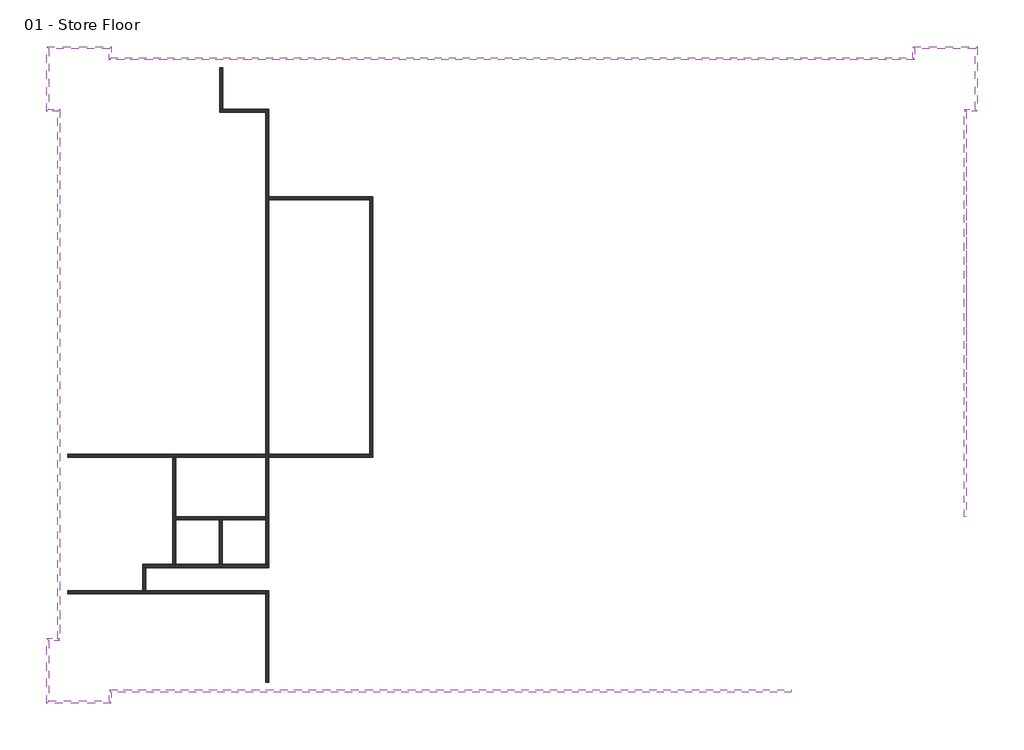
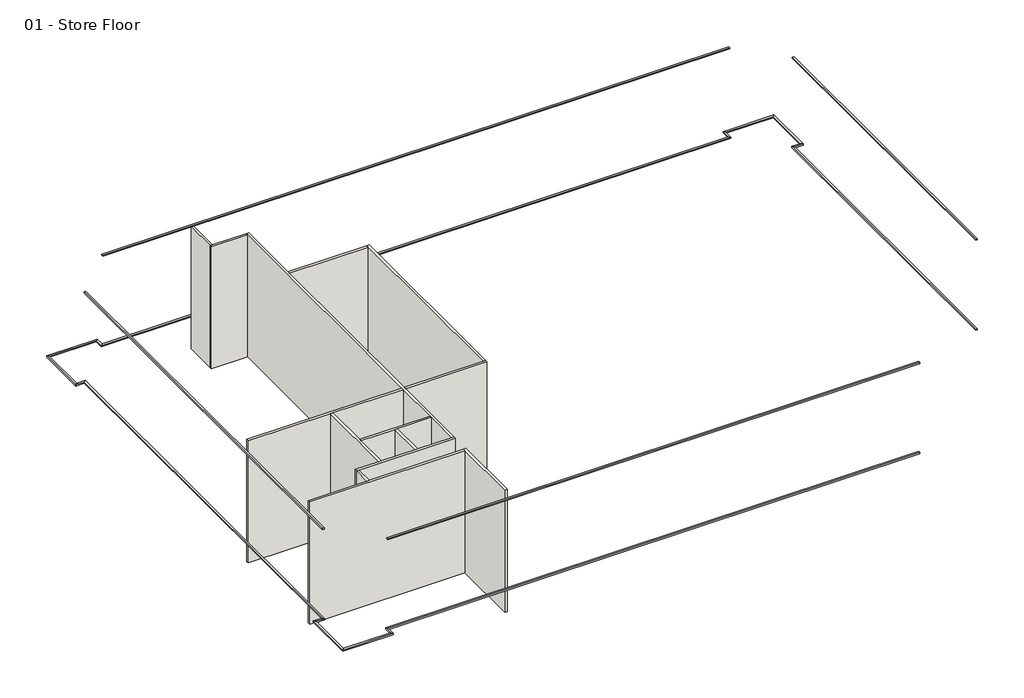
# One storey: 20 proxies, 13 walls.
"""IFC4 building model written with IfcOpenShell, lengths in millimetres."""

from ifc_helpers import new_model, si_unit, frame, origin, origin_with_axes, place, context, project, spatial, polyline, outline, extrude, faceted_brep, element, save

model = new_model("IFC4")

# Units and contexts
model_context = context("Model", 3, world=origin())
ifc_project = project(units=[si_unit("LENGTHUNIT", "METRE", prefix="MILLI")], contexts=[model_context])

# Site, building, storey
site = spatial("IfcSite", under=ifc_project)
building = spatial("IfcBuilding", under=site)
storey = spatial("IfcBuildingStorey", under=building, Name="01 - Store Floor", Elevation=0.0)

# Proxies
placement = place(None, origin())
element("IfcBuildingElementProxy", 1, Name="Reveals", at=placement, inside=storey, context=model_context, shape_type="SweptSolid", body=[
    extrude(outline(polyline([(10855.5272279, -14331.9313057), (10855.5272279, -14434.4313057), (-20003.9727721, -14434.4313057), (-20106.4727721, -14331.9313057), (10855.5272279, -14331.9313057)])), frame((0.0, 0.0, 1675.0), z_axis=(0.0, 0.0, 1.0), x_axis=(1.0, 0.0, 0.0)), (0.0, 0.0, 1.0), 75.0),
])
element("IfcBuildingElementProxy", 2, Name="Reveals", at=placement, inside=storey, context=model_context, shape_type="SweptSolid", body=[
    extrude(outline(polyline([(10855.5272279, -14331.9313057), (10855.5272279, -14434.4313057), (-20031.4727721, -14434.4313057), (-20031.4727721, -14331.9313057), (10855.5272279, -14331.9313057)])), frame((0.0, 0.0, 7200.0), z_axis=(0.0, 0.0, 1.0), x_axis=(1.0, 0.0, 0.0)), (0.0, 0.0, 1.0), 75.0),
])
element("IfcBuildingElementProxy", 3, Name="Reveals", at=placement, inside=storey, context=model_context, shape_type="SweptSolid", body=[
    extrude(outline(polyline([(-20106.4727721, -14331.9313057), (-20003.9727721, -14434.4313057), (-20003.9727721, -14934.2313057), (-20106.4727721, -14831.7313057), (-20106.4727721, -14331.9313057)])), frame((0.0, 0.0, 1675.0), z_axis=(0.0, 0.0, 1.0), x_axis=(1.0, 0.0, 0.0)), (0.0, 0.0, 1.0), 75.0),
])
element("IfcBuildingElementProxy", 4, Name="Reveals", at=placement, inside=storey, context=model_context, shape_type="SweptSolid", body=[
    extrude(outline(polyline([(-20106.4727721, -14831.7313057), (-20003.9727721, -14934.2313057), (-22946.9727721, -14934.2313057), (-22844.4727721, -14831.7313057), (-20106.4727721, -14831.7313057)])), frame((0.0, 0.0, 1675.0), z_axis=(0.0, 0.0, 1.0), x_axis=(1.0, 0.0, 0.0)), (0.0, 0.0, 1.0), 75.0),
])
element("IfcBuildingElementProxy", 5, Name="Reveals", at=placement, inside=storey, context=model_context, shape_type="SweptSolid", body=[
    extrude(outline(polyline([(-22844.4727721, -14831.7313057), (-22946.9727721, -14934.2313057), (-22946.9727721, -11991.2313057), (-22844.4727721, -12093.7313057), (-22844.4727721, -14831.7313057)])), frame((0.0, 0.0, 1675.0), z_axis=(0.0, 0.0, 1.0), x_axis=(1.0, 0.0, 0.0)), (0.0, 0.0, 1.0), 75.0),
])
element("IfcBuildingElementProxy", 6, Name="Reveals", at=placement, inside=storey, context=model_context, shape_type="SweptSolid", body=[
    extrude(outline(polyline([(-22844.4727721, -12093.7313057), (-22946.9727721, -11991.2313057), (-22446.9727721, -11991.2313057), (-22344.4727721, -12093.7313057), (-22844.4727721, -12093.7313057)])), frame((0.0, 0.0, 1675.0), z_axis=(0.0, 0.0, 1.0), x_axis=(1.0, 0.0, 0.0)), (0.0, 0.0, 1.0), 75.0),
])
element("IfcBuildingElementProxy", 7, Name="Reveals", at=placement, inside=storey, context=model_context, shape_type="SweptSolid", body=[
    extrude(outline(polyline([(-22344.4727721, -12093.7313057), (-22446.9727721, -11991.2313057), (-22446.9727721, 11927.5686943), (-22344.4727721, 12030.0686943), (-22344.4727721, -12093.7313057)])), frame((0.0, 0.0, 1675.0), z_axis=(0.0, 0.0, 1.0), x_axis=(1.0, 0.0, 0.0)), (0.0, 0.0, 1.0), 75.0),
])
element("IfcBuildingElementProxy", 8, Name="Reveals", at=placement, inside=storey, context=model_context, shape_type="SweptSolid", body=[
    extrude(outline(polyline([(-22344.4727721, -12018.7313057), (-22446.9727721, -12018.7313057), (-22446.9727721, 11955.0686943), (-22344.4727721, 11955.0686943), (-22344.4727721, -12018.7313057)])), frame((0.0, 0.0, 7200.0), z_axis=(0.0, 0.0, 1.0), x_axis=(1.0, 0.0, 0.0)), (0.0, 0.0, 1.0), 75.0),
])
element("IfcBuildingElementProxy", 9, Name="Reveals", at=placement, inside=storey, context=model_context, shape_type="SweptSolid", body=[
    extrude(outline(polyline([(-22344.4727721, 12030.0686943), (-22446.9727721, 11927.5686943), (-22946.9727721, 11927.5686943), (-22844.4727721, 12030.0686943), (-22344.4727721, 12030.0686943)])), frame((0.0, 0.0, 1675.0), z_axis=(0.0, 0.0, 1.0), x_axis=(1.0, 0.0, 0.0)), (0.0, 0.0, 1.0), 75.0),
])
element("IfcBuildingElementProxy", 10, Name="Reveals", at=placement, inside=storey, context=model_context, shape_type="SweptSolid", body=[
    extrude(outline(polyline([(-22844.4727721, 12030.0686943), (-22946.9727721, 11927.5686943), (-22946.9727721, 14870.5686943), (-22844.4727721, 14768.0686943), (-22844.4727721, 12030.0686943)])), frame((0.0, 0.0, 1675.0), z_axis=(0.0, 0.0, 1.0), x_axis=(1.0, 0.0, 0.0)), (0.0, 0.0, 1.0), 75.0),
])
element("IfcBuildingElementProxy", 11, Name="Reveals", at=placement, inside=storey, context=model_context, shape_type="SweptSolid", body=[
    extrude(outline(polyline([(-22844.4727721, 14768.0686943), (-22946.9727721, 14870.5686943), (-20003.9727721, 14870.5686943), (-20106.4727721, 14768.0686943), (-22844.4727721, 14768.0686943)])), frame((0.0, 0.0, 1675.0), z_axis=(0.0, 0.0, 1.0), x_axis=(1.0, 0.0, 0.0)), (0.0, 0.0, 1.0), 75.0),
])
element("IfcBuildingElementProxy", 12, Name="Reveals", at=placement, inside=storey, context=model_context, shape_type="SweptSolid", body=[
    extrude(outline(polyline([(-20106.4727721, 14768.0686943), (-20003.9727721, 14870.5686943), (-20003.9727721, 14370.5686943), (-20106.4727721, 14268.0686943), (-20106.4727721, 14768.0686943)])), frame((0.0, 0.0, 1675.0), z_axis=(0.0, 0.0, 1.0), x_axis=(1.0, 0.0, 0.0)), (0.0, 0.0, 1.0), 75.0),
])
element("IfcBuildingElementProxy", 13, Name="Reveals", at=placement, inside=storey, context=model_context, shape_type="SweptSolid", body=[
    extrude(outline(polyline([(-20106.4727721, 14268.0686943), (-20003.9727721, 14370.5686943), (16365.0272279, 14370.5686943), (16467.5272279, 14268.0686943), (-20106.4727721, 14268.0686943)])), frame((0.0, 0.0, 1675.0), z_axis=(0.0, 0.0, 1.0), x_axis=(1.0, 0.0, 0.0)), (0.0, 0.0, 1.0), 75.0),
])
element("IfcBuildingElementProxy", 14, Name="Reveals", at=placement, inside=storey, context=model_context, shape_type="SweptSolid", body=[
    extrude(outline(polyline([(-20031.4727721, 14268.0686943), (-20031.4727721, 14370.5686943), (16392.5272279, 14370.5686943), (16392.5272279, 14268.0686943), (-20031.4727721, 14268.0686943)])), frame((0.0, 0.0, 7200.0), z_axis=(0.0, 0.0, 1.0), x_axis=(1.0, 0.0, 0.0)), (0.0, 0.0, 1.0), 75.0),
])
element("IfcBuildingElementProxy", 15, Name="Reveals", at=placement, inside=storey, context=model_context, shape_type="SweptSolid", body=[
    extrude(outline(polyline([(16467.5272279, 14268.0686943), (16365.0272279, 14370.5686943), (16365.0272279, 14870.5686943), (16467.5272279, 14768.0686943), (16467.5272279, 14268.0686943)])), frame((0.0, 0.0, 1675.0), z_axis=(0.0, 0.0, 1.0), x_axis=(1.0, 0.0, 0.0)), (0.0, 0.0, 1.0), 75.0),
])
element("IfcBuildingElementProxy", 16, Name="Reveals", at=placement, inside=storey, context=model_context, shape_type="SweptSolid", body=[
    extrude(outline(polyline([(16467.5272279, 14768.0686943), (16365.0272279, 14870.5686943), (19308.0272279, 14870.5686943), (19205.5272279, 14768.0686943), (16467.5272279, 14768.0686943)])), frame((0.0, 0.0, 1675.0), z_axis=(0.0, 0.0, 1.0), x_axis=(1.0, 0.0, 0.0)), (0.0, 0.0, 1.0), 75.0),
])
element("IfcBuildingElementProxy", 17, Name="Reveals", at=placement, inside=storey, context=model_context, shape_type="SweptSolid", body=[
    extrude(outline(polyline([(19205.5272279, 14768.0686943), (19308.0272279, 14870.5686943), (19308.0272279, 11927.5686943), (19205.5272279, 12030.0686943), (19205.5272279, 14768.0686943)])), frame((0.0, 0.0, 1675.0), z_axis=(0.0, 0.0, 1.0), x_axis=(1.0, 0.0, 0.0)), (0.0, 0.0, 1.0), 75.0),
])
element("IfcBuildingElementProxy", 18, Name="Reveals", at=placement, inside=storey, context=model_context, shape_type="SweptSolid", body=[
    extrude(outline(polyline([(19205.5272279, 12030.0686943), (19308.0272279, 11927.5686943), (18808.0272279, 11927.5686943), (18705.5272279, 12030.0686943), (19205.5272279, 12030.0686943)])), frame((0.0, 0.0, 1675.0), z_axis=(0.0, 0.0, 1.0), x_axis=(1.0, 0.0, 0.0)), (0.0, 0.0, 1.0), 75.0),
])
element("IfcBuildingElementProxy", 19, Name="Reveals", at=placement, inside=storey, context=model_context, shape_type="SweptSolid", body=[
    extrude(outline(polyline([(18705.5272279, 12030.0686943), (18808.0272279, 11927.5686943), (18808.0272279, -6481.9313057), (18705.5272279, -6481.9313057), (18705.5272279, 12030.0686943)])), frame((0.0, 0.0, 1675.0), z_axis=(0.0, 0.0, 1.0), x_axis=(1.0, 0.0, 0.0)), (0.0, 0.0, 1.0), 75.0),
])
element("IfcBuildingElementProxy", 20, Name="Reveals", at=placement, inside=storey, context=model_context, shape_type="SweptSolid", body=[
    extrude(outline(polyline([(18705.5272279, 11955.0686943), (18808.0272279, 11955.0686943), (18808.0272279, -6481.9313057), (18705.5272279, -6481.9313057), (18705.5272279, 11955.0686943)])), frame((0.0, 0.0, 7200.0), z_axis=(0.0, 0.0, 1.0), x_axis=(1.0, 0.0, 0.0)), (0.0, 0.0, 1.0), 75.0),
])

# Walls
element("IfcWall", 21, ObjectType="Interior - 138mm Partition (1-hr)", at=placement, inside=storey, context=model_context, shape_type="Brep", body=[
    faceted_brep([(-12850.2227721, -13977.9313057, 0.0), (-12850.2227721, -9826.1813057, 0.0), (-12850.2227721, -9826.1813057, 7500.0), (-12850.2227721, -13977.9313057, 7500.0), (-12988.7227721, -13977.9313057, 0.0), (-12988.7227721, -13977.9313057, 7500.0), (-12988.7227721, -9964.6813057, 7500.0), (-12988.7227721, -9826.1813057, 7500.0), (-12988.7227721, -9826.1813057, 0.0), (-12988.7227721, -9964.6813057, 0.0)], [[[0, 1, 2, 3]], [[4, 5, 6, 7, 8, 9]], [[1, 0, 4, 9, 8]], [[3, 2, 7, 6, 5]], [[0, 3, 5, 4]], [[2, 1, 8, 7]]]),
])
element("IfcWall", 22, ObjectType="Interior - 138mm Partition (1-hr)", at=placement, inside=storey, context=model_context, shape_type="Brep", body=[
    faceted_brep([(-12988.7227721, 12024.3186943, 0.0), (-14950.2227721, 12024.3186943, 0.0), (-15088.7227721, 12024.3186943, 0.0), (-15088.7227721, 12024.3186943, 7500.0), (-14950.2227721, 12024.3186943, 7500.0), (-12988.7227721, 12024.3186943, 7500.0), (-12988.7227721, 11885.8186943, 0.0), (-12988.7227721, 11885.8186943, 7500.0), (-15088.7227721, 11885.8186943, 7500.0), (-15088.7227721, 11885.8186943, 0.0)], [[[0, 1, 2, 3, 4, 5]], [[6, 7, 8, 9]], [[2, 1, 0, 6, 9]], [[5, 4, 3, 8, 7]], [[0, 5, 7, 6]], [[3, 2, 9, 8]]]),
])
element("IfcWall", 23, ObjectType="Interior - 138mm Partition (1-hr)", at=placement, inside=storey, context=model_context, shape_type="SweptSolid", body=[
    extrude(outline(polyline([(-14950.2227721, 13914.0686943), (-14950.2227721, 12024.3186943), (-15088.7227721, 12024.3186943), (-15088.7227721, 13914.0686943), (-14950.2227721, 13914.0686943)])), origin_with_axes(), (0.0, 0.0, 1.0), 7500.0),
])
element("IfcWall", 24, ObjectType="Interior - 138mm Partition (1-hr)", at=placement, inside=storey, context=model_context, shape_type="Brep", body=[
    faceted_brep([(-12850.2227721, -8637.6813057, 0.0), (-12988.7227721, -8637.6813057, 0.0), (-14965.5977721, -8637.6813057, 0.0), (-15104.0977721, -8637.6813057, 0.0), (-17080.9727721, -8637.6813057, 0.0), (-17219.4727721, -8637.6813057, 0.0), (-18588.7227721, -8637.6813057, 0.0), (-18588.7227721, -8637.6813057, 7500.0), (-17219.4727721, -8637.6813057, 7500.0), (-17080.9727721, -8637.6813057, 7500.0), (-15104.0977721, -8637.6813057, 7500.0), (-14965.5977721, -8637.6813057, 7500.0), (-12988.7227721, -8637.6813057, 7500.0), (-12850.2227721, -8637.6813057, 7500.0), (-12850.2227721, -8776.1813057, 0.0), (-12850.2227721, -8776.1813057, 7500.0), (-18450.2227721, -8776.1813057, 7500.0), (-18588.7227721, -8776.1813057, 7500.0), (-18588.7227721, -8776.1813057, 0.0), (-18450.2227721, -8776.1813057, 0.0)], [[[0, 1, 2, 3, 4, 5, 6, 7, 8, 9, 10, 11, 12, 13]], [[14, 15, 16, 17, 18, 19]], [[6, 5, 4, 3, 2, 1, 0, 14, 19, 18]], [[13, 12, 11, 10, 9, 8, 7, 17, 16, 15]], [[7, 6, 18, 17]], [[0, 13, 15, 14]]]),
])
element("IfcWall", 25, ObjectType="Interior - 138mm Partition (1-hr)", at=placement, inside=storey, context=model_context, shape_type="SweptSolid", body=[
    extrude(outline(polyline([(-18588.7227721, -9826.1813057), (-18588.7227721, -8776.1813057), (-18450.2227721, -8776.1813057), (-18450.2227721, -9826.1813057), (-18588.7227721, -9826.1813057)])), origin_with_axes(), (0.0, 0.0, 1.0), 7500.0),
])
element("IfcWall", 26, ObjectType="Interior - 138mm Partition (1-hr)", at=placement, inside=storey, context=model_context, shape_type="Brep", body=[
    faceted_brep([(-21990.4727721, -9964.6813057, 0.0), (-12988.7227721, -9964.6813057, 0.0), (-12988.7227721, -9964.6813057, 7500.0), (-21990.4727721, -9964.6813057, 7500.0), (-21990.4727721, -9826.1813057, 0.0), (-21990.4727721, -9826.1813057, 7500.0), (-18588.7227721, -9826.1813057, 7500.0), (-18450.2227721, -9826.1813057, 7500.0), (-12988.7227721, -9826.1813057, 7500.0), (-12988.7227721, -9826.1813057, 0.0), (-18450.2227721, -9826.1813057, 0.0), (-18588.7227721, -9826.1813057, 0.0)], [[[0, 1, 2, 3]], [[4, 5, 6, 7, 8, 9, 10, 11]], [[1, 0, 4, 11, 10, 9]], [[3, 2, 8, 7, 6, 5]], [[0, 3, 5, 4]], [[2, 1, 9, 8]]]),
])
element("IfcWall", 27, ObjectType="Interior - 138mm Partition (1-hr)", at=placement, inside=storey, context=model_context, shape_type="Brep", body=[
    faceted_brep([(-17080.9727721, -8637.6813057, 0.0), (-17080.9727721, -6606.9313057, 0.0), (-17080.9727721, -6468.4313057, 0.0), (-17080.9727721, -3776.1813057, 0.0), (-17080.9727721, -3776.1813057, 7500.0), (-17080.9727721, -6468.4313057, 7500.0), (-17080.9727721, -6606.9313057, 7500.0), (-17080.9727721, -8637.6813057, 7500.0), (-17219.4727721, -8637.6813057, 0.0), (-17219.4727721, -8637.6813057, 7500.0), (-17219.4727721, -3776.1813057, 7500.0), (-17219.4727721, -3776.1813057, 0.0)], [[[0, 1, 2, 3, 4, 5, 6, 7]], [[8, 9, 10, 11]], [[3, 2, 1, 0, 8, 11]], [[7, 6, 5, 4, 10, 9]], [[0, 7, 9, 8]], [[4, 3, 11, 10]]]),
])
element("IfcWall", 28, ObjectType="Interior - 138mm Partition (1-hr)", at=placement, inside=storey, context=model_context, shape_type="Brep", body=[
    faceted_brep([(-21990.4727721, -3637.6813057, 0.0), (-21990.4727721, -3637.6813057, 7500.0), (-12988.7227721, -3637.6813057, 7500.0), (-12988.7227721, -3637.6813057, 0.0), (-21990.4727721, -3776.1813057, 7500.0), (-21990.4727721, -3776.1813057, 0.0), (-17219.4727721, -3776.1813057, 0.0), (-17080.9727721, -3776.1813057, 0.0), (-12988.7227721, -3776.1813057, 0.0), (-12988.7227721, -3776.1813057, 7500.0), (-17080.9727721, -3776.1813057, 7500.0), (-17219.4727721, -3776.1813057, 7500.0)], [[[0, 1, 2, 3]], [[4, 5, 6, 7, 8, 9, 10, 11]], [[5, 0, 3, 8, 7, 6]], [[1, 4, 11, 10, 9, 2]], [[1, 0, 5, 4]], [[3, 2, 9, 8]]]),
    faceted_brep([(-8135.7227721, -3637.6813057, 7500.0), (-8135.7227721, -3637.6813057, 0.0), (-8274.2227721, -3637.6813057, 0.0), (-12850.2227721, -3637.6813057, 0.0), (-12850.2227721, -3637.6813057, 7500.0), (-8274.2227721, -3637.6813057, 7500.0), (-8135.7227721, -3776.1813057, 0.0), (-8135.7227721, -3776.1813057, 7500.0), (-12850.2227721, -3776.1813057, 7500.0), (-12850.2227721, -3776.1813057, 0.0)], [[[0, 1, 2, 3, 4, 5]], [[6, 7, 8, 9]], [[1, 6, 9, 3, 2]], [[7, 0, 5, 4, 8]], [[1, 0, 7, 6]], [[4, 3, 9, 8]]]),
])
element("IfcWall", 29, ObjectType="Interior - 138mm Partition (1-hr)", at=placement, inside=storey, context=model_context, shape_type="Brep", body=[
    faceted_brep([(-8135.7227721, -3637.6813057, 0.0), (-8135.7227721, 8062.3186943, 0.0), (-8135.7227721, 8062.3186943, 7500.0), (-8135.7227721, -3637.6813057, 7500.0), (-8274.2227721, -3637.6813057, 0.0), (-8274.2227721, -3637.6813057, 7500.0), (-8274.2227721, 7923.8186943, 7500.0), (-8274.2227721, 8062.3186943, 7500.0), (-8274.2227721, 8062.3186943, 0.0), (-8274.2227721, 7923.8186943, 0.0)], [[[0, 1, 2, 3]], [[4, 5, 6, 7, 8, 9]], [[1, 0, 4, 9, 8]], [[3, 2, 7, 6, 5]], [[0, 3, 5, 4]], [[2, 1, 8, 7]]]),
])
element("IfcWall", 30, ObjectType="Interior - 138mm Partition (1-hr)", at=placement, inside=storey, context=model_context, shape_type="SweptSolid", body=[
    extrude(outline(polyline([(-12850.2227721, 8062.3186943), (-8274.2227721, 8062.3186943), (-8274.2227721, 7923.8186943), (-12850.2227721, 7923.8186943), (-12850.2227721, 8062.3186943)])), origin_with_axes(), (0.0, 0.0, 1.0), 7500.0),
])
element("IfcWall", 31, ObjectType="Interior - 138mm Partition (1-hr)", at=placement, inside=storey, context=model_context, shape_type="Brep", body=[
    faceted_brep([(-12988.7227721, -6468.4313057, 0.0), (-17080.9727721, -6468.4313057, 0.0), (-17080.9727721, -6468.4313057, 7500.0), (-12988.7227721, -6468.4313057, 7500.0), (-12988.7227721, -6606.9313057, 0.0), (-12988.7227721, -6606.9313057, 7500.0), (-14965.5977721, -6606.9313057, 7500.0), (-15104.0977721, -6606.9313057, 7500.0), (-17080.9727721, -6606.9313057, 7500.0), (-17080.9727721, -6606.9313057, 0.0), (-15104.0977721, -6606.9313057, 0.0), (-14965.5977721, -6606.9313057, 0.0)], [[[0, 1, 2, 3]], [[4, 5, 6, 7, 8, 9, 10, 11]], [[1, 0, 4, 11, 10, 9]], [[3, 2, 8, 7, 6, 5]], [[0, 3, 5, 4]], [[2, 1, 9, 8]]]),
])
element("IfcWall", 32, ObjectType="Interior - 138mm Partition (1-hr)", at=placement, inside=storey, context=model_context, shape_type="SweptSolid", body=[
    extrude(outline(polyline([(-15104.0977721, -8637.6813057), (-15104.0977721, -6606.9313057), (-14965.5977721, -6606.9313057), (-14965.5977721, -8637.6813057), (-15104.0977721, -8637.6813057)])), origin_with_axes(), (0.0, 0.0, 1.0), 7500.0),
])
element("IfcWall", 33, ObjectType="Interior - 138mm Partition (1-hr)", at=placement, inside=storey, context=model_context, shape_type="Brep", body=[
    faceted_brep([(-12850.2227721, -8637.6813057, 0.0), (-12850.2227721, -3776.1813057, 0.0), (-12850.2227721, -3637.6813057, 0.0), (-12850.2227721, 7923.8186943, 0.0), (-12850.2227721, 8062.3186943, 0.0), (-12850.2227721, 12024.3186943, 0.0), (-12850.2227721, 12024.3186943, 7500.0), (-12850.2227721, 8062.3186943, 7500.0), (-12850.2227721, 7923.8186943, 7500.0), (-12850.2227721, -3637.6813057, 7500.0), (-12850.2227721, -3776.1813057, 7500.0), (-12850.2227721, -8637.6813057, 7500.0), (-12988.7227721, -8637.6813057, 0.0), (-12988.7227721, -8637.6813057, 7500.0), (-12988.7227721, -6606.9313057, 7500.0), (-12988.7227721, -6468.4313057, 7500.0), (-12988.7227721, -3776.1813057, 7500.0), (-12988.7227721, -3637.6813057, 7500.0), (-12988.7227721, 11885.8186943, 7500.0), (-12988.7227721, 12024.3186943, 7500.0), (-12988.7227721, 12024.3186943, 0.0), (-12988.7227721, 11885.8186943, 0.0), (-12988.7227721, -3637.6813057, 0.0), (-12988.7227721, -3776.1813057, 0.0), (-12988.7227721, -6468.4313057, 0.0), (-12988.7227721, -6606.9313057, 0.0)], [[[0, 1, 2, 3, 4, 5, 6, 7, 8, 9, 10, 11]], [[12, 13, 14, 15, 16, 17, 18, 19, 20, 21, 22, 23, 24, 25]], [[5, 4, 3, 2, 1, 0, 12, 25, 24, 23, 22, 21, 20]], [[11, 10, 9, 8, 7, 6, 19, 18, 17, 16, 15, 14, 13]], [[6, 5, 20, 19]], [[0, 11, 13, 12]]]),
])

save(model, "model.ifc")
